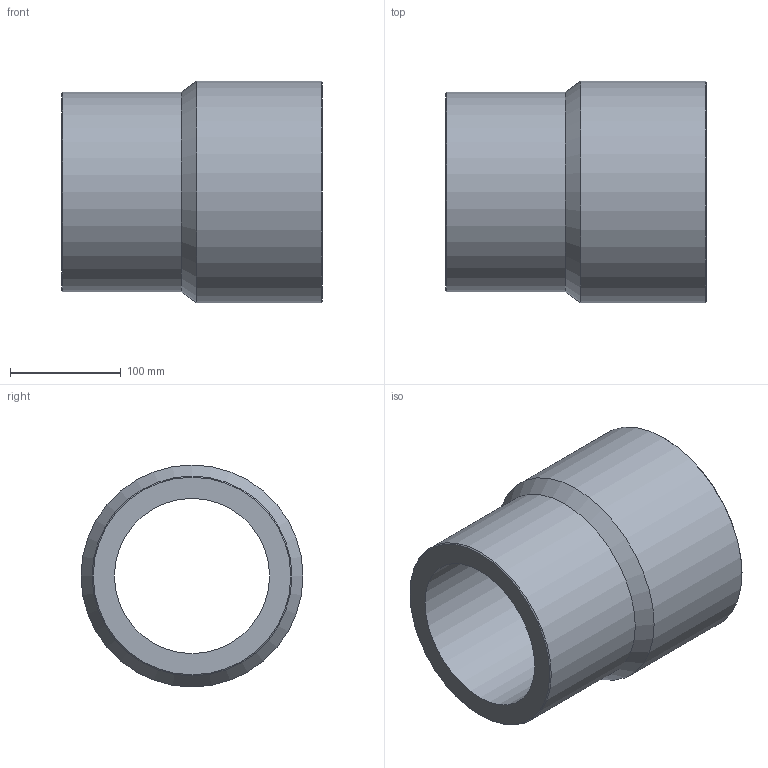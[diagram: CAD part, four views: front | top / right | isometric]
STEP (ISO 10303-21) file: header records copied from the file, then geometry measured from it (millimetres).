
FILE_DESCRIPTION(/* description */ ('Unknown'),/* implementation_level */ '2;1');
FILE_NAME(/* name */ 'RP200180G',/* time_stamp */ '2021-09-16T17:12:56+02:00',/* author */ ('Unknown'),/* organization */ ('Unknown'),/* preprocessor_version */ 'ST-DEVELOPER v16.7',/* originating_system */ 'Solid Edge',/* authorisation */ 'Unknown');
FILE_SCHEMA (('AUTOMOTIVE_DESIGN {1 0 10303 214 3 1 1}'));
Length unit declared in the file: millimetre
Products named in the file (1): RP200180G
Bounding box: 235 x 200 x 200 mm (x, y, z)
Volume: 2706413.2 mm3; surface area: 273539.1 mm2
Topology: 1 solids, 1 shells, 10 faces, 19 edges, 11 vertices
Faces by surface type: cylinder 4, cone 4, plane 2
Full cylindrical faces by diameter (mm): 139.8 x1, 155.2 x1, 180 x1, 200 x1
Entity records: 238 total; most frequent: DIRECTION 42, CARTESIAN_POINT 31, AXIS2_PLACEMENT_3D 21, ORIENTED_EDGE 20, EDGE_LOOP 20, FACE_BOUND 20, EDGE_CURVE 10, VERTEX_POINT 10
